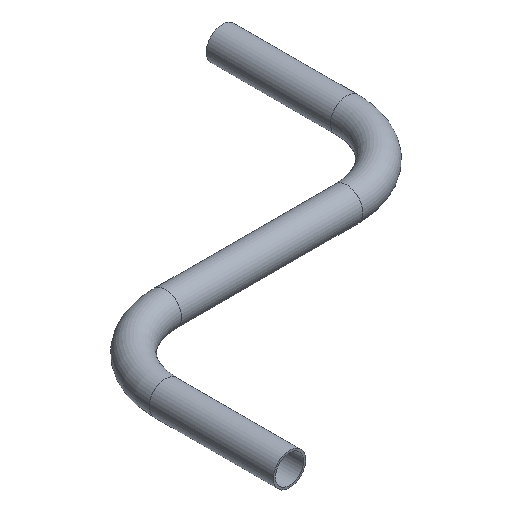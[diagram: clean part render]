
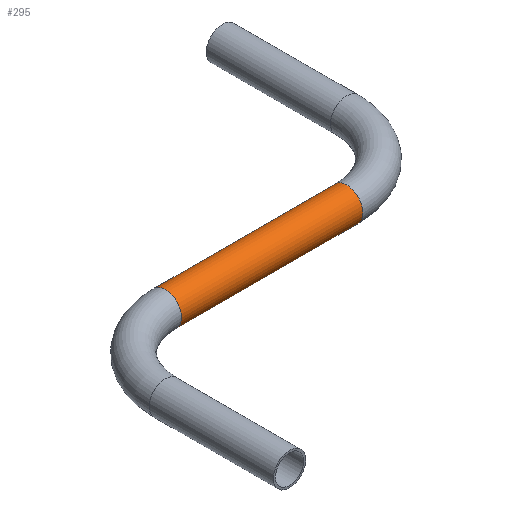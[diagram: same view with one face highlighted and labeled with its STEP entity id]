
A CAD part, isometric view. The second image highlights one B-rep face of the part: STEP entity #295.
In plain terms, the highlighted cylindrical face has radius 24.15 mm (diameter 48.3 mm), a full revolution.
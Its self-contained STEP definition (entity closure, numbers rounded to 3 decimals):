
#2 = AXIS2_PLACEMENT_3D ( 'NONE', #85, #245, #272 ) ;
#21 = CARTESIAN_POINT ( 'NONE',  ( 385., 300., 24.15 ) ) ;
#27 = EDGE_CURVE ( 'NONE', #71, #71, #104, .T. ) ;
#31 = CARTESIAN_POINT ( 'NONE',  ( 115., 300., 0. ) ) ;
#39 = EDGE_LOOP ( 'NONE', ( #237 ) ) ;
#49 = CARTESIAN_POINT ( 'NONE',  ( 115., 300., 24.15 ) ) ;
#71 = VERTEX_POINT ( 'NONE', #49 ) ;
#84 = EDGE_CURVE ( 'NONE', #166, #166, #145, .T. ) ;
#85 = CARTESIAN_POINT ( 'NONE',  ( 385., 300., 0. ) ) ;
#104 = CIRCLE ( 'NONE', #189, 24.15 ) ;
#119 = DIRECTION ( 'NONE',  ( 1., 0., 0. ) ) ;
#124 = DIRECTION ( 'NONE',  ( 0., 0., -1. ) ) ;
#130 = DIRECTION ( 'NONE',  ( 0., 0., 1. ) ) ;
#140 = EDGE_LOOP ( 'NONE', ( #181 ) ) ;
#145 = CIRCLE ( 'NONE', #2, 24.15 ) ;
#166 = VERTEX_POINT ( 'NONE', #21 ) ;
#181 = ORIENTED_EDGE ( 'NONE', *, *, #27, .T. ) ;
#189 = AXIS2_PLACEMENT_3D ( 'NONE', #31, #315, #130 ) ;
#224 = FACE_OUTER_BOUND ( 'NONE', #39, .T. ) ;
#237 = ORIENTED_EDGE ( 'NONE', *, *, #84, .F. ) ;
#245 = DIRECTION ( 'NONE',  ( 1., 0., 0. ) ) ;
#250 = CARTESIAN_POINT ( 'NONE',  ( 115., 300., 0. ) ) ;
#272 = DIRECTION ( 'NONE',  ( 0., 0., 1. ) ) ;
#295 = ADVANCED_FACE ( 'NONE', ( #224, #329 ), #325, .T. ) ;
#315 = DIRECTION ( 'NONE',  ( 1., 0., 0. ) ) ;
#325 = CYLINDRICAL_SURFACE ( 'NONE', #327, 24.15 ) ;
#327 = AXIS2_PLACEMENT_3D ( 'NONE', #250, #119, #124 ) ;
#329 = FACE_OUTER_BOUND ( 'NONE', #140, .T. ) ;
